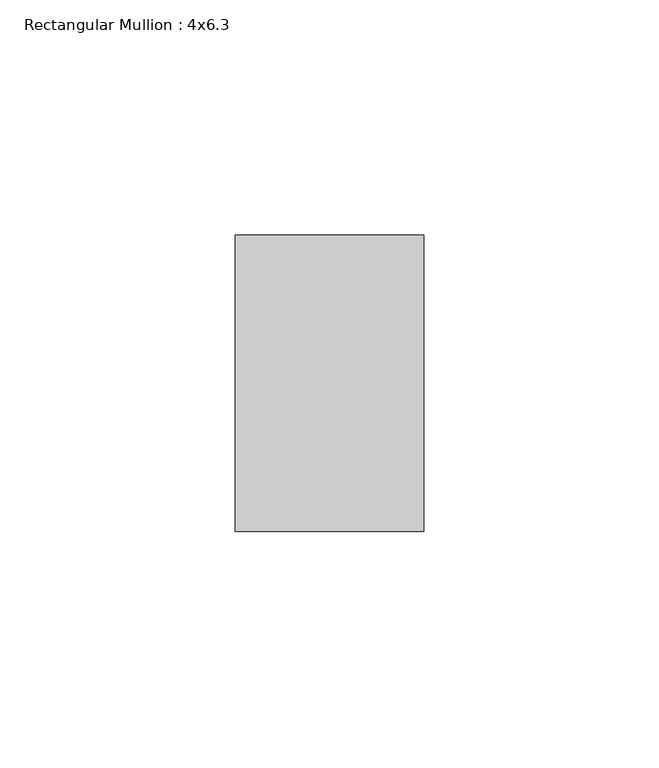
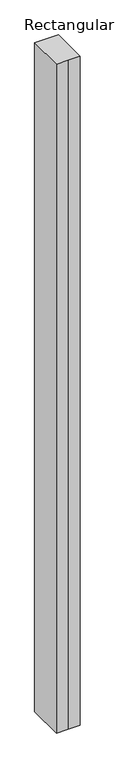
"""IFC4 building model written with IfcOpenShell, lengths in millimetres: member geometry, Rectangular Mullion : 4x6.3."""

from ifc_helpers import new_model, si_unit, frame, origin, place, context, project, spatial, polyline, outline, extrude, source, transform, mapped, element, save


def rectangular_mullion_4x6_3_83949747(model_context):
    return source(origin(), model_context, "Body", "SweptSolid", [
        extrude(outline(polyline([(-20.0, 20.0), (-20.0, 83.0), (20.0, 83.0), (20.0, 20.0), (0.0, 20.0), (-20.0, 20.0)])), frame((0.0, 0.0, -1187.3739416), z_axis=(0.0, 0.0, 1.0), x_axis=(1.0, 0.0, 0.0)), (0.0, 0.0, 1.0), 1187.3739416),
    ])


if __name__ == "__main__":
    model = new_model("IFC4")
    model_context = context("Model", 3, world=origin())
    ifc_project = project(units=[si_unit("LENGTHUNIT", "METRE", prefix="MILLI")], contexts=[model_context])
    site = spatial("IfcSite", under=ifc_project)
    building = spatial("IfcBuilding", under=site)
    placement = place(None, origin())
    rectangular_mullion_4x6_3_shape = rectangular_mullion_4x6_3_83949747(model_context)
    element("IfcMember", 1, ObjectType="Rectangular Mullion : 4x6.3", at=placement, inside=building, context=model_context, shape_type="MappedRepresentation", body=[
        mapped(rectangular_mullion_4x6_3_shape, transform((0.0, 0.0, 0.0), x_axis=(1.0, 0.0, 0.0), y_axis=(0.0, 1.0, 0.0), z_axis=(0.0, 0.0, 1.0))),
    ])
    save(model, "model.ifc")
